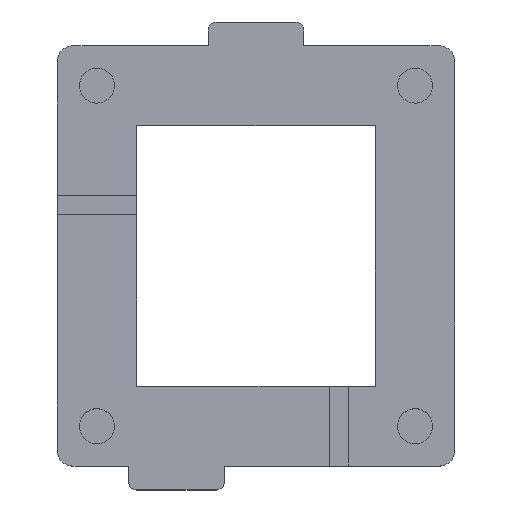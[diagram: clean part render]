
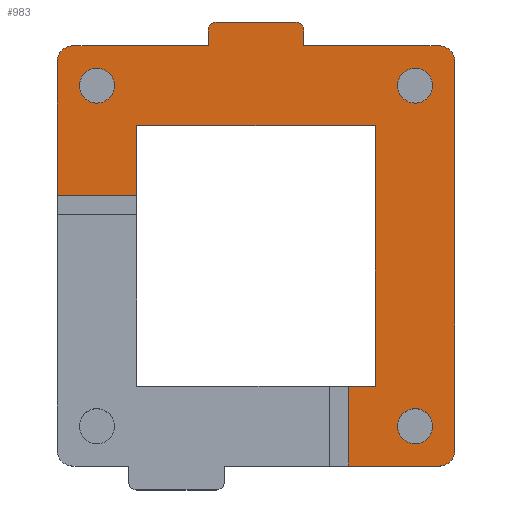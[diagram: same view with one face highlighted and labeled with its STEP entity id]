
A CAD part, top view. The second image highlights one B-rep face of the part: STEP entity #983.
In plain terms, the highlighted planar face has unit normal (0, 0, 1).
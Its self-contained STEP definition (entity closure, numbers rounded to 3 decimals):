
#15=FACE_BOUND('',#128,.T.);
#16=FACE_BOUND('',#129,.T.);
#17=FACE_BOUND('',#130,.T.);
#32=PLANE('',#1068);
#75=FACE_OUTER_BOUND('',#127,.T.);
#127=EDGE_LOOP('',(#783,#784,#785,#786,#787,#788,#789,#790,#791,#792,#793,
#794,#795,#796,#797,#798,#799,#800,#801));
#128=EDGE_LOOP('',(#802));
#129=EDGE_LOOP('',(#803));
#130=EDGE_LOOP('',(#804));
#181=LINE('',#1443,#293);
#205=LINE('',#1505,#317);
#229=LINE('',#1568,#341);
#231=LINE('',#1572,#343);
#232=LINE('',#1576,#344);
#233=LINE('',#1578,#345);
#234=LINE('',#1582,#346);
#235=LINE('',#1583,#347);
#236=LINE('',#1585,#348);
#237=LINE('',#1586,#349);
#238=LINE('',#1588,#350);
#239=LINE('',#1590,#351);
#240=LINE('',#1594,#352);
#241=LINE('',#1597,#353);
#293=VECTOR('',#1153,10.);
#317=VECTOR('',#1205,10.);
#341=VECTOR('',#1259,10.);
#343=VECTOR('',#1263,10.);
#344=VECTOR('',#1266,10.);
#345=VECTOR('',#1267,10.);
#346=VECTOR('',#1270,10.);
#347=VECTOR('',#1271,10.);
#348=VECTOR('',#1272,10.);
#349=VECTOR('',#1273,10.);
#350=VECTOR('',#1274,10.);
#351=VECTOR('',#1275,10.);
#352=VECTOR('',#1278,10.);
#353=VECTOR('',#1281,10.);
#405=CIRCLE('',#1066,0.5);
#406=CIRCLE('',#1069,0.5);
#407=CIRCLE('',#1070,1.);
#408=CIRCLE('',#1071,1.);
#409=CIRCLE('',#1072,1.);
#410=CIRCLE('',#1073,1.1);
#411=CIRCLE('',#1074,1.1);
#412=CIRCLE('',#1075,1.1);
#436=VERTEX_POINT('',#1440);
#437=VERTEX_POINT('',#1442);
#460=VERTEX_POINT('',#1502);
#461=VERTEX_POINT('',#1504);
#483=VERTEX_POINT('',#1561);
#484=VERTEX_POINT('',#1563);
#485=VERTEX_POINT('',#1567);
#486=VERTEX_POINT('',#1571);
#487=VERTEX_POINT('',#1573);
#488=VERTEX_POINT('',#1575);
#489=VERTEX_POINT('',#1577);
#490=VERTEX_POINT('',#1579);
#491=VERTEX_POINT('',#1581);
#492=VERTEX_POINT('',#1584);
#493=VERTEX_POINT('',#1587);
#494=VERTEX_POINT('',#1589);
#495=VERTEX_POINT('',#1591);
#496=VERTEX_POINT('',#1593);
#497=VERTEX_POINT('',#1595);
#498=VERTEX_POINT('',#1598);
#499=VERTEX_POINT('',#1600);
#500=VERTEX_POINT('',#1602);
#537=EDGE_CURVE('',#437,#436,#181,.T.);
#568=EDGE_CURVE('',#461,#460,#205,.T.);
#598=EDGE_CURVE('',#483,#484,#405,.T.);
#600=EDGE_CURVE('',#484,#485,#229,.T.);
#602=EDGE_CURVE('',#486,#483,#231,.T.);
#603=EDGE_CURVE('',#487,#486,#406,.T.);
#604=EDGE_CURVE('',#488,#487,#232,.T.);
#605=EDGE_CURVE('',#488,#489,#233,.T.);
#606=EDGE_CURVE('',#490,#489,#407,.T.);
#607=EDGE_CURVE('',#490,#491,#234,.T.);
#608=EDGE_CURVE('',#491,#461,#235,.T.);
#609=EDGE_CURVE('',#460,#492,#236,.T.);
#610=EDGE_CURVE('',#492,#437,#237,.T.);
#611=EDGE_CURVE('',#436,#493,#238,.T.);
#612=EDGE_CURVE('',#493,#494,#239,.T.);
#613=EDGE_CURVE('',#495,#494,#408,.T.);
#614=EDGE_CURVE('',#495,#496,#240,.T.);
#615=EDGE_CURVE('',#497,#496,#409,.T.);
#616=EDGE_CURVE('',#497,#485,#241,.T.);
#617=EDGE_CURVE('',#498,#498,#410,.T.);
#618=EDGE_CURVE('',#499,#499,#411,.T.);
#619=EDGE_CURVE('',#500,#500,#412,.T.);
#783=ORIENTED_EDGE('',*,*,#598,.F.);
#784=ORIENTED_EDGE('',*,*,#602,.F.);
#785=ORIENTED_EDGE('',*,*,#603,.F.);
#786=ORIENTED_EDGE('',*,*,#604,.F.);
#787=ORIENTED_EDGE('',*,*,#605,.T.);
#788=ORIENTED_EDGE('',*,*,#606,.F.);
#789=ORIENTED_EDGE('',*,*,#607,.T.);
#790=ORIENTED_EDGE('',*,*,#608,.T.);
#791=ORIENTED_EDGE('',*,*,#568,.T.);
#792=ORIENTED_EDGE('',*,*,#609,.T.);
#793=ORIENTED_EDGE('',*,*,#610,.T.);
#794=ORIENTED_EDGE('',*,*,#537,.T.);
#795=ORIENTED_EDGE('',*,*,#611,.T.);
#796=ORIENTED_EDGE('',*,*,#612,.T.);
#797=ORIENTED_EDGE('',*,*,#613,.F.);
#798=ORIENTED_EDGE('',*,*,#614,.T.);
#799=ORIENTED_EDGE('',*,*,#615,.F.);
#800=ORIENTED_EDGE('',*,*,#616,.T.);
#801=ORIENTED_EDGE('',*,*,#600,.F.);
#802=ORIENTED_EDGE('',*,*,#617,.T.);
#803=ORIENTED_EDGE('',*,*,#618,.T.);
#804=ORIENTED_EDGE('',*,*,#619,.T.);
#983=ADVANCED_FACE('',(#75,#15,#16,#17),#32,.T.);
#1066=AXIS2_PLACEMENT_3D('',#1564,#1254,#1255);
#1068=AXIS2_PLACEMENT_3D('',#1570,#1261,#1262);
#1069=AXIS2_PLACEMENT_3D('',#1574,#1264,#1265);
#1070=AXIS2_PLACEMENT_3D('',#1580,#1268,#1269);
#1071=AXIS2_PLACEMENT_3D('',#1592,#1276,#1277);
#1072=AXIS2_PLACEMENT_3D('',#1596,#1279,#1280);
#1073=AXIS2_PLACEMENT_3D('',#1599,#1282,#1283);
#1074=AXIS2_PLACEMENT_3D('',#1601,#1284,#1285);
#1075=AXIS2_PLACEMENT_3D('',#1603,#1286,#1287);
#1153=DIRECTION('',(-1.,0.,0.));
#1205=DIRECTION('',(0.,1.,0.));
#1254=DIRECTION('center_axis',(0.,0.,-1.));
#1255=DIRECTION('ref_axis',(0.707,0.707,0.));
#1259=DIRECTION('',(0.,-1.,0.));
#1261=DIRECTION('center_axis',(0.,0.,1.));
#1262=DIRECTION('ref_axis',(1.,0.,0.));
#1263=DIRECTION('',(1.,0.,0.));
#1264=DIRECTION('center_axis',(0.,0.,-1.));
#1265=DIRECTION('ref_axis',(-0.707,0.707,0.));
#1266=DIRECTION('',(0.,1.,0.));
#1267=DIRECTION('',(-1.,0.,0.));
#1268=DIRECTION('center_axis',(0.,0.,-1.));
#1269=DIRECTION('ref_axis',(-0.707,0.707,0.));
#1270=DIRECTION('',(0.,-1.,0.));
#1271=DIRECTION('',(1.,0.,0.));
#1272=DIRECTION('',(1.,0.,0.));
#1273=DIRECTION('',(0.,-1.,0.));
#1274=DIRECTION('',(0.,-1.,0.));
#1275=DIRECTION('',(1.,0.,0.));
#1276=DIRECTION('center_axis',(0.,0.,-1.));
#1277=DIRECTION('ref_axis',(0.707,-0.707,0.));
#1278=DIRECTION('',(0.,1.,0.));
#1279=DIRECTION('center_axis',(0.,0.,-1.));
#1280=DIRECTION('ref_axis',(0.707,0.707,0.));
#1281=DIRECTION('',(-1.,0.,0.));
#1282=DIRECTION('center_axis',(0.,0.,-1.));
#1283=DIRECTION('ref_axis',(1.,0.,0.));
#1284=DIRECTION('center_axis',(0.,0.,-1.));
#1285=DIRECTION('ref_axis',(1.,0.,0.));
#1286=DIRECTION('center_axis',(0.,0.,-1.));
#1287=DIRECTION('ref_axis',(1.,0.,0.));
#1440=CARTESIAN_POINT('',(5.8,-8.2,4.));
#1442=CARTESIAN_POINT('',(7.5,-8.2,4.));
#1443=CARTESIAN_POINT('',(-7.5,-8.2,4.));
#1502=CARTESIAN_POINT('',(-7.5,8.2,4.));
#1504=CARTESIAN_POINT('',(-7.5,3.8,4.));
#1505=CARTESIAN_POINT('',(-7.5,8.2,4.));
#1561=CARTESIAN_POINT('',(2.5,14.7,4.));
#1563=CARTESIAN_POINT('',(3.,14.2,4.));
#1564=CARTESIAN_POINT('Origin',(2.5,14.2,4.));
#1567=CARTESIAN_POINT('',(3.,13.2,4.));
#1568=CARTESIAN_POINT('',(3.,14.7,4.));
#1570=CARTESIAN_POINT('Origin',(0.,0.,
4.));
#1571=CARTESIAN_POINT('',(-2.5,14.7,4.));
#1572=CARTESIAN_POINT('',(-3.,14.7,4.));
#1573=CARTESIAN_POINT('',(-3.,14.2,4.));
#1574=CARTESIAN_POINT('Origin',(-2.5,14.2,4.));
#1575=CARTESIAN_POINT('',(-3.,13.2,4.));
#1576=CARTESIAN_POINT('',(-3.,11.7,4.));
#1577=CARTESIAN_POINT('',(-11.5,13.2,4.));
#1578=CARTESIAN_POINT('',(12.5,13.2,4.));
#1579=CARTESIAN_POINT('',(-12.5,12.2,4.));
#1580=CARTESIAN_POINT('Origin',(-11.5,12.2,4.));
#1581=CARTESIAN_POINT('',(-12.5,3.8,4.));
#1582=CARTESIAN_POINT('',(-12.5,13.2,4.));
#1583=CARTESIAN_POINT('',(-7.5,3.8,4.));
#1584=CARTESIAN_POINT('',(7.5,8.2,4.));
#1585=CARTESIAN_POINT('',(7.5,8.2,4.));
#1586=CARTESIAN_POINT('',(7.5,-8.2,4.));
#1587=CARTESIAN_POINT('',(5.8,-13.2,4.));
#1588=CARTESIAN_POINT('',(5.8,-8.2,4.));
#1589=CARTESIAN_POINT('',(11.5,-13.2,4.));
#1590=CARTESIAN_POINT('',(-12.5,-13.2,4.));
#1591=CARTESIAN_POINT('',(12.5,-12.2,4.));
#1592=CARTESIAN_POINT('Origin',(11.5,-12.2,4.));
#1593=CARTESIAN_POINT('',(12.5,12.2,4.));
#1594=CARTESIAN_POINT('',(12.5,-13.2,4.));
#1595=CARTESIAN_POINT('',(11.5,13.2,4.));
#1596=CARTESIAN_POINT('Origin',(11.5,12.2,4.));
#1597=CARTESIAN_POINT('',(12.5,13.2,4.));
#1598=CARTESIAN_POINT('',(8.9,-10.7,4.));
#1599=CARTESIAN_POINT('Origin',(10.,-10.7,4.));
#1600=CARTESIAN_POINT('',(8.9,10.7,4.));
#1601=CARTESIAN_POINT('Origin',(10.,10.7,4.));
#1602=CARTESIAN_POINT('',(-11.1,10.7,4.));
#1603=CARTESIAN_POINT('Origin',(-10.,10.7,4.));
